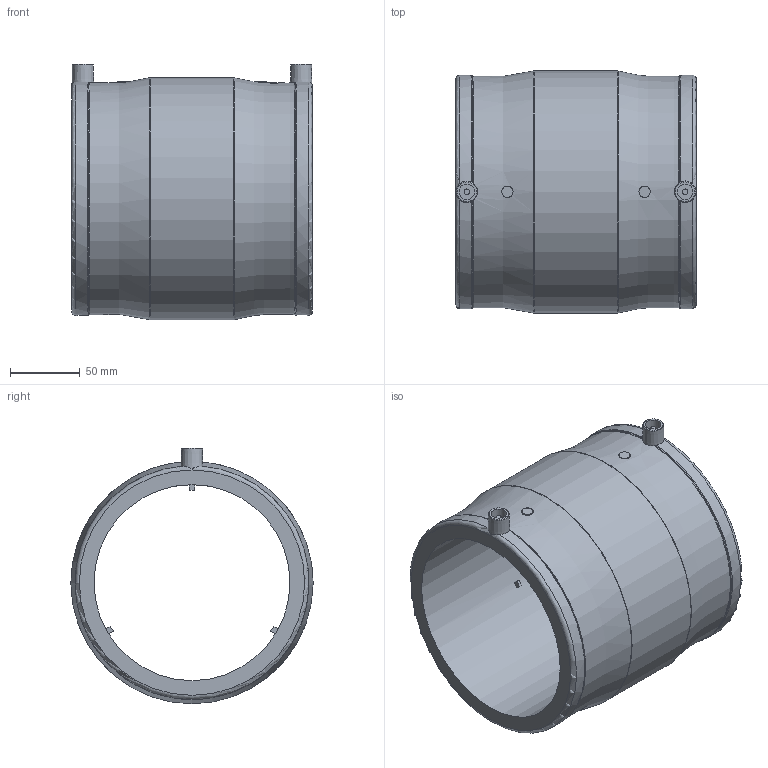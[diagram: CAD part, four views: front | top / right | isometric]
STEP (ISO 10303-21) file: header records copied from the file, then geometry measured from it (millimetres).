
FILE_DESCRIPTION(/* description */ ('Unknown'),/* implementation_level */ '2;1');
FILE_NAME(/* name */ 'MP140A',/* time_stamp */ '2021-05-06T08:22:03+02:00',/* author */ ('Unknown'),/* organization */ ('Unknown'),/* preprocessor_version */ 'ST-DEVELOPER v16.7',/* originating_system */ 'Solid Edge',/* authorisation */ 'Unknown');
FILE_SCHEMA (('AUTOMOTIVE_DESIGN {1 0 10303 214 3 1 1}'));
Length unit declared in the file: millimetre
Products named in the file (1): MP140A
Bounding box: 172 x 173 x 182.5 mm (x, y, z)
Volume: 1211158 mm3; surface area: 181832.3 mm2
Topology: 1 solids, 1 shells, 57 faces, 140 edges, 92 vertices
Faces by surface type: plane 27, cylinder 16, torus 12, cone 2
Full cylindrical faces by diameter (mm): 4 x2, 8 x2, 11 x2, 140 x1, 173 x1
Entity records: 1562 total; most frequent: CARTESIAN_POINT 344, DIRECTION 252, ORIENTED_EDGE 212, AXIS2_PLACEMENT_3D 108, EDGE_CURVE 106, EDGE_LOOP 86, FACE_BOUND 86, VERTEX_POINT 78
